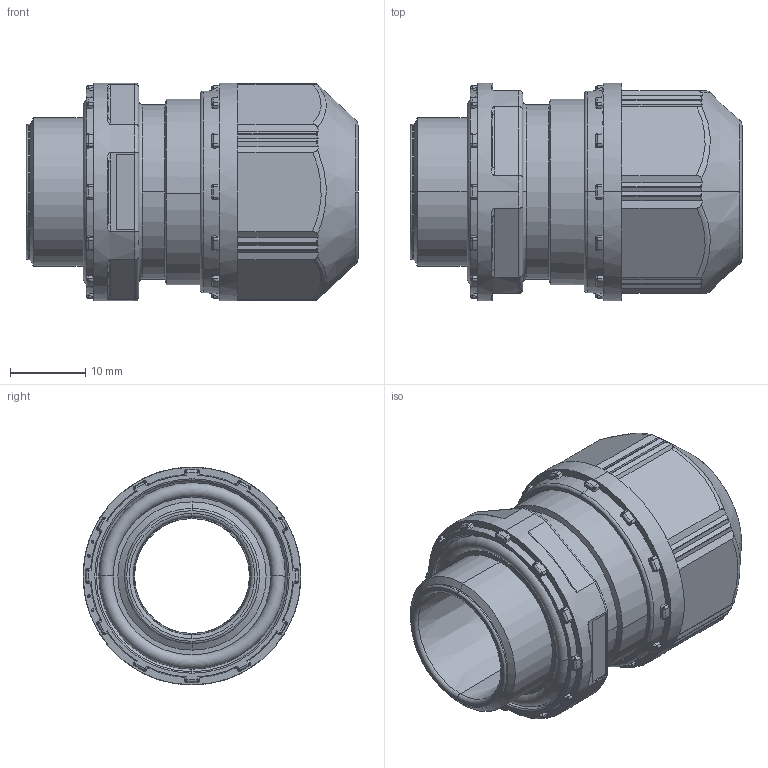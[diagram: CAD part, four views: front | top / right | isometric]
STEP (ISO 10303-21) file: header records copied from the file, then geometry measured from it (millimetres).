
FILE_DESCRIPTION(('Creo Elements/Direct Modeling STEP Export'),'2;1');
FILE_NAME('H18-0015-CL901-01_OA-WW20M-08／15.stp','2022-09-15T13:43:11',(''),(''),'Creo Elements/Direct Modeling STEP processor for AP214 (Solid Model)','Creo Elements/Direct Modeling 20.3A 20-Jun-2020 (C) Parametric Technology GmbH','');
FILE_SCHEMA(('AUTOMOTIVE_DESIGN { 1 0 10303 214 1 1 1 1 }'));
Length unit declared in the file: millimetre
Products named in the file (2): Nipple; OA-WW20M-08-15
Assembly tree (1 placements, depth 2):
  OA-WW20M-08-15
    Nipple
Bounding box: 44.2 x 29 x 29 mm (x, y, z)
Volume: 13878.2 mm3; surface area: 7581.1 mm2
Topology: 1 solids, 1 shells, 604 faces, 1531 edges, 951 vertices
Faces by surface type: bspline 210, plane 160, cylinder 94, torus 90, cone 50
Entity records: 32325 total; most frequent: CARTESIAN_POINT 18916, ORIENTED_EDGE 3062, DIRECTION 2412, EDGE_CURVE 1531, AXIS2_PLACEMENT_3D 983, VERTEX_POINT 951, EDGE_LOOP 628, FACE_OUTER_BOUND 604
